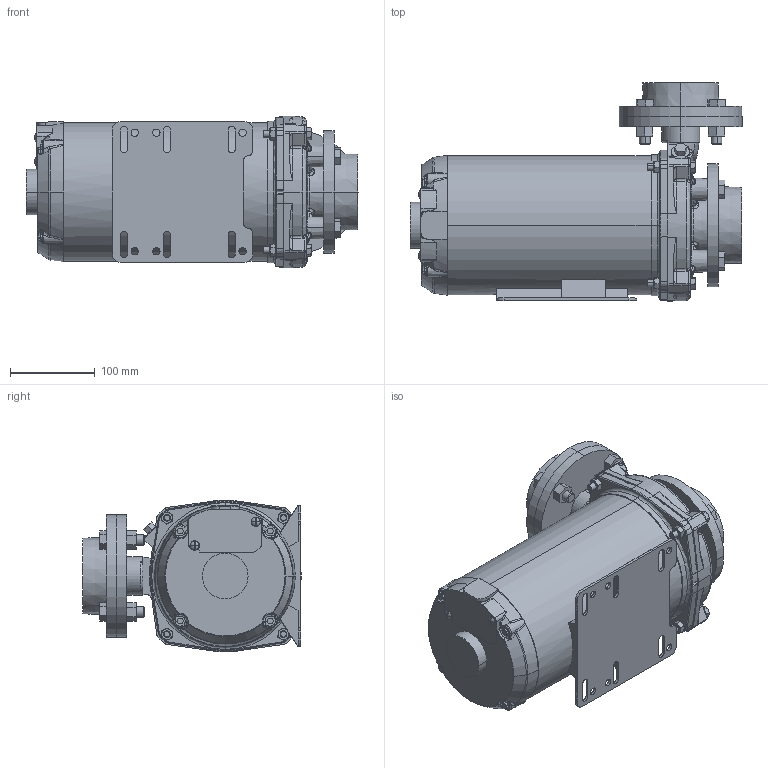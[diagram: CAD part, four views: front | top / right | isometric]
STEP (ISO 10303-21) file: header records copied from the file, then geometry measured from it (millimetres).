
FILE_DESCRIPTION (( 'STEP AP214' ), '1' );
FILE_NAME ('BOMBA CAM-W10 3,0CV T 220_380V INC FLG IR3.STEP', '2026-06-08T13:28:50', ( '' ), ( '' ), 'SwSTEP 2.0', 'SolidWorks 2025', '' );
FILE_SCHEMA (( 'AUTOMOTIVE_DESIGN' ));
Length unit declared in the file: millimetre
Products named in the file (10): 14801095 - MOTOR WEG IP21 ST JJ 3,0CV T 220-380V 2P 60HZ FC165FF E56 IR3; PORCA SEXTAVADA UNC 5-16'''' CH-1-2'''' SALT SPRAY 96h - 60700052; FLANGE 2.1-2'''' CAM-W16 - 60550141_60550141 para CAM W16; CARCA_A CAM-W10 FLANGEADA - 60351000; PARAFUSO SEXTAVADO UNC 5-16'''' X 2'''' SALT SPRAY 96h - 60700050; PLUG DE ESCORVA LATÃO 3-8'''' - 60550166; BOMBA CAM-W10 3,0CV T 220_380V INC FLG IR3; PARAFUSO SEXTAVADO UNC 1-2'''' x 1'''' SALT SPRAY 96h - 60700041; PORCA SEXTAVADA UNC 1-2'''' CH-3-4'''' AÇO 1020 SALT SPRAY 96h - 60700042; PARAFUSO SEXTAVADO UNC 1-2'''' x 1.3-4'''' SALT SPRAY 96h - 60700603
Assembly tree (25 placements, depth 2):
  BOMBA CAM-W10 3,0CV T 220_380V INC FLG IR3
    14801095 - MOTOR WEG IP21 ST JJ 3,0CV T 220-380V 2P 60HZ FC165FF E56 IR3
    CARCA_A CAM-W10 FLANGEADA - 60351000
    FLANGE 2.1-2'''' CAM-W16 - 60550141_60550141 para CAM W16  x2
    PLUG DE ESCORVA LATÃO 3-8'''' - 60550166
    PARAFUSO SEXTAVADO UNC 1-2'''' x 1'''' SALT SPRAY 96h - 60700041  x4
    PARAFUSO SEXTAVADO UNC 1-2'''' x 1.3-4'''' SALT SPRAY 96h - 60700603  x4
    PARAFUSO SEXTAVADO UNC 5-16'''' X 2'''' SALT SPRAY 96h - 60700050  x4
    PORCA SEXTAVADA UNC 5-16'''' CH-1-2'''' SALT SPRAY 96h - 60700052  x4
    PORCA SEXTAVADA UNC 1-2'''' CH-3-4'''' AÇO 1020 SALT SPRAY 96h - 60700042  x4
Bounding box: 391.15 x 257.25 x 178.76 mm (x, y, z)
Volume: 8161784.4 mm3; surface area: 524658.2 mm2
Topology: 27 solids, 30 shells, 1527 faces, 3737 edges, 2289 vertices
Faces by surface type: plane 464, bspline 343, cylinder 328, cone 253, torus 117, sphere 22
Entity records: 51450 total; most frequent: CARTESIAN_POINT 23924, ORIENTED_EDGE 6202, DIRECTION 5020, EDGE_CURVE 3101, AXIS2_PLACEMENT_3D 2093, VERTEX_POINT 1917, EDGE_LOOP 1360, ADVANCED_FACE 1252
